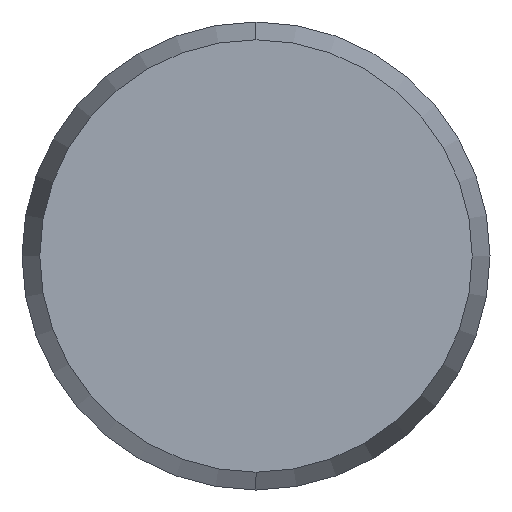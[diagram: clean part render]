
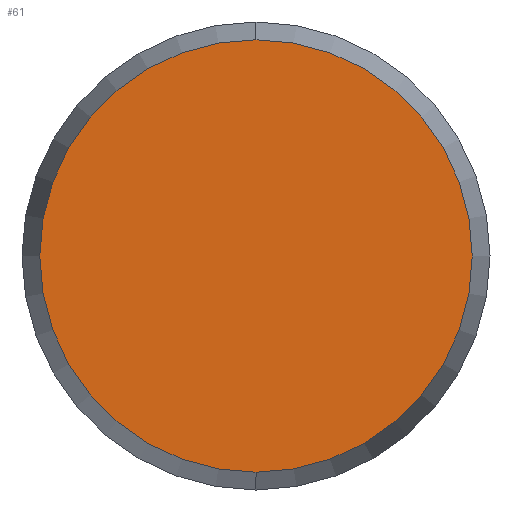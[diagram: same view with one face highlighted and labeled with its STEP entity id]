
A CAD part, left-side view. The second image highlights one B-rep face of the part: STEP entity #61.
In plain terms, the highlighted planar face has unit normal (-1, 0, 0).
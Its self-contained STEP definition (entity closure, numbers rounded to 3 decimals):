
#9 = EDGE_CURVE ( 'NONE', #10, #11, #270, .T. ) ;
#10 = VERTEX_POINT ( 'NONE', #38 ) ;
#11 = VERTEX_POINT ( 'NONE', #39 ) ;
#38 = CARTESIAN_POINT ( 'NONE',  ( -12., 0., 5.544 ) ) ;
#39 = CARTESIAN_POINT ( 'NONE',  ( -12., 0., -5.544 ) ) ;
#49 = ORIENTED_EDGE ( 'NONE', *, *, #63, .F. ) ;
#50 = ORIENTED_EDGE ( 'NONE', *, *, #9, .F. ) ;
#60 = EDGE_LOOP ( 'NONE', ( #50, #49 ) ) ;
#61 = ADVANCED_FACE ( 'NONE', ( #138 ), #136, .F. ) ;
#63 = EDGE_CURVE ( 'NONE', #11, #10, #192, .T. ) ;
#136 = PLANE ( 'NONE',  #144 ) ;
#138 = FACE_OUTER_BOUND ( 'NONE', #60, .T. ) ;
#141 = DIRECTION ( 'NONE',  ( 0., 0., -1. ) ) ;
#142 = DIRECTION ( 'NONE',  ( 1., 0., 0. ) ) ;
#143 = CARTESIAN_POINT ( 'NONE',  ( -12., 0., 0. ) ) ;
#144 = AXIS2_PLACEMENT_3D ( 'NONE', #143, #142, #141 ) ;
#157 = DIRECTION ( 'NONE',  ( 1., 0., 0. ) ) ;
#192 = CIRCLE ( 'NONE', #202, 5.544 ) ;
#193 = CARTESIAN_POINT ( 'NONE',  ( -12., 0., 0. ) ) ;
#201 = DIRECTION ( 'NONE',  ( 0., 0., -1. ) ) ;
#202 = AXIS2_PLACEMENT_3D ( 'NONE', #193, #157, #201 ) ;
#268 = DIRECTION ( 'NONE',  ( 0., 0., -1. ) ) ;
#269 = AXIS2_PLACEMENT_3D ( 'NONE', #272, #271, #268 ) ;
#270 = CIRCLE ( 'NONE', #269, 5.544 ) ;
#271 = DIRECTION ( 'NONE',  ( 1., 0., 0. ) ) ;
#272 = CARTESIAN_POINT ( 'NONE',  ( -12., 0., 0. ) ) ;
